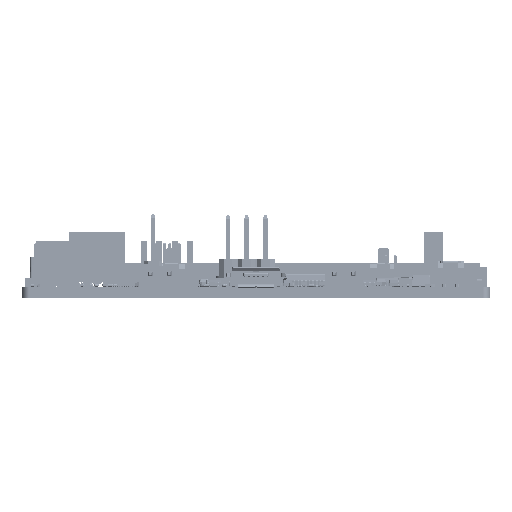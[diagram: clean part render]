
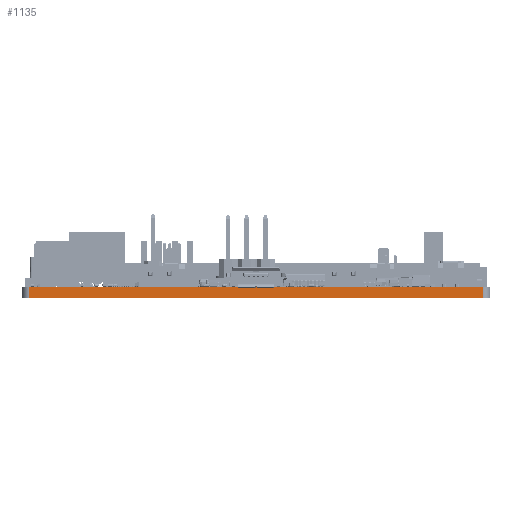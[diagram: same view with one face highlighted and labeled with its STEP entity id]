
A CAD part, left-side view. The second image highlights one B-rep face of the part: STEP entity #1135.
In plain terms, the highlighted planar face has unit normal (-1, 0, 0).
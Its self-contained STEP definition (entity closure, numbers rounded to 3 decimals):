
#1108 = VERTEX_POINT('',#1109);
#1109 = CARTESIAN_POINT('',(0.,1.016,
    1.528));
#1116 = EDGE_CURVE('',#1117,#1108,#1119,.T.);
#1117 = VERTEX_POINT('',#1118);
#1118 = CARTESIAN_POINT('',(0.,1.016,0.)
  );
#1119 = LINE('',#1120,#1121);
#1120 = CARTESIAN_POINT('',(0.,1.016,0.)
  );
#1121 = VECTOR('',#1122,1.);
#1122 = DIRECTION('',(0.,0.,1.));
#1135 = ADVANCED_FACE('',(#1136),#1161,.T.);
#1136 = FACE_BOUND('',#1137,.T.);
#1137 = EDGE_LOOP('',(#1138,#1139,#1147,#1155));
#1138 = ORIENTED_EDGE('',*,*,#1116,.T.);
#1139 = ORIENTED_EDGE('',*,*,#1140,.T.);
#1140 = EDGE_CURVE('',#1108,#1141,#1143,.T.);
#1141 = VERTEX_POINT('',#1142);
#1142 = CARTESIAN_POINT('',(0.,62.484,
    1.528));
#1143 = LINE('',#1144,#1145);
#1144 = CARTESIAN_POINT('',(0.,1.016,1.528));
#1145 = VECTOR('',#1146,1.);
#1146 = DIRECTION('',(0.,1.,0.));
#1147 = ORIENTED_EDGE('',*,*,#1148,.F.);
#1148 = EDGE_CURVE('',#1149,#1141,#1151,.T.);
#1149 = VERTEX_POINT('',#1150);
#1150 = CARTESIAN_POINT('',(0.,62.484,0.)
  );
#1151 = LINE('',#1152,#1153);
#1152 = CARTESIAN_POINT('',(0.,62.484,0.)
  );
#1153 = VECTOR('',#1154,1.);
#1154 = DIRECTION('',(0.,0.,1.));
#1155 = ORIENTED_EDGE('',*,*,#1156,.F.);
#1156 = EDGE_CURVE('',#1117,#1149,#1157,.T.);
#1157 = LINE('',#1158,#1159);
#1158 = CARTESIAN_POINT('',(0.,1.016,0.));
#1159 = VECTOR('',#1160,1.);
#1160 = DIRECTION('',(0.,1.,0.));
#1161 = PLANE('',#1162);
#1162 = AXIS2_PLACEMENT_3D('',#1163,#1164,#1165);
#1163 = CARTESIAN_POINT('',(0.,1.016,0.));
#1164 = DIRECTION('',(-1.,0.,0.));
#1165 = DIRECTION('',(0.,1.,0.));
